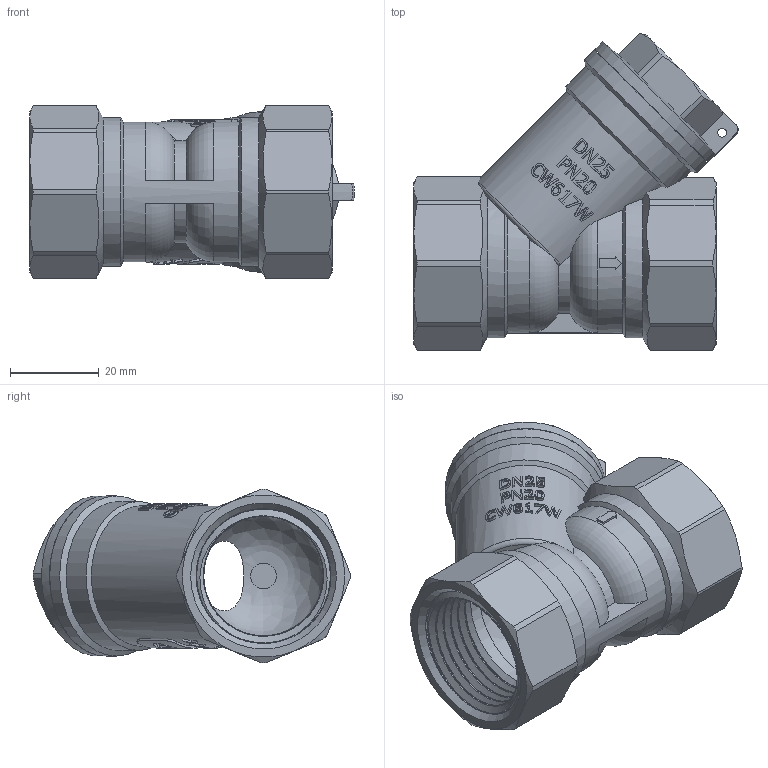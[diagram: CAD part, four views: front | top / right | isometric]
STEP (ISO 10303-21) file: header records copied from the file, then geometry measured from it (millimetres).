
FILE_DESCRIPTION(/* description */ (''),/* implementation_level */ '2;1');
FILE_NAME(/* name */ 'C:\Users\Doom\Desktop\Фадотех\2\F13 17.08.2021\F13 17.08.2021.stp',/* time_stamp */ '2021-12-16T23:01:48+02:00',/* author */ ('Doom'),/* organization */ (''),/* preprocessor_version */ 'ST-DEVELOPER v18',/* originating_system */ 'Autodesk Inventor 2020',/* authorisation */ '');
FILE_SCHEMA (('AUTOMOTIVE_DESIGN { 1 0 10303 214 3 1 1 }'));
Length unit declared in the file: millimetre
Products named in the file (3): F13 17.08.2021; 20-01532-G25-0620-4210; 20-01532-G25-5720
Assembly tree (2 placements, depth 2):
  F13 17.08.2021
    20-01532-G25-0620-4210
    20-01532-G25-5720
Bounding box: 72.96 x 71.41 x 39 mm (x, y, z)
Volume: 40722.5 mm3; surface area: 34964.2 mm2
Topology: 6 solids, 6 shells, 504 faces, 1397 edges, 934 vertices
Faces by surface type: bspline 301, cylinder 101, plane 55, cone 39, torus 8
Full cylindrical faces by diameter (mm): 2 x1, 20 x1, 23.963 x1, 24.2 x1, 25.924 x8, 26.876 x4, 27.334 x4, 28 x2, 28.148 x2, 28.517 x2, 30 x6, 30.3 x4, 30.593 x1, 33.5 x1, 36 x2
Entity records: 35092 total; most frequent: CARTESIAN_POINT 24487, ORIENTED_EDGE 2778, EDGE_CURVE 1389, DIRECTION 1184, VERTEX_POINT 930, B_SPLINE_CURVE_WITH_KNOTS 723, EDGE_LOOP 551, FACE_OUTER_BOUND 504
